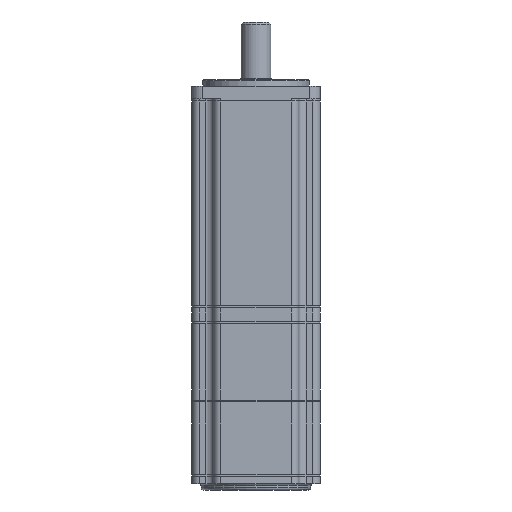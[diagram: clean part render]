
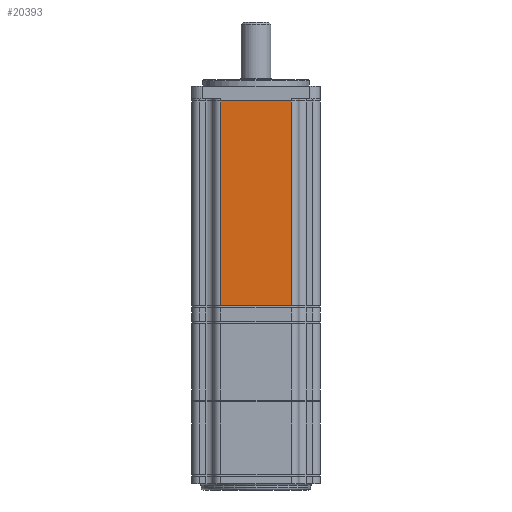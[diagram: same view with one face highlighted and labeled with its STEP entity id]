
A CAD part, front view. The second image highlights one B-rep face of the part: STEP entity #20393.
In plain terms, the highlighted planar face has unit normal (0, -1, 0) as drawn and (-1, 0, 0) by its records, which use the part's own axes.
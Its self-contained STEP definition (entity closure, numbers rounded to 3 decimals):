
#14836 = CARTESIAN_POINT ( 'NONE',  ( -30., 16.5, 96. ) ) ;
#14838 = CARTESIAN_POINT ( 'NONE',  ( -30., -16.5, 96. ) ) ;
#14907 = CARTESIAN_POINT ( 'NONE',  ( -30., -16.5, 0. ) ) ;
#14908 = CARTESIAN_POINT ( 'NONE',  ( -30., 16.5, 0. ) ) ;
#20393 = ADVANCED_FACE ( 'NONE', ( #88384 ), #87640, .F. ) ;
#20890 = EDGE_CURVE ( 'NONE', #22185, #22186, #89109, .T. ) ;
#20958 = EDGE_CURVE ( 'NONE', #22224, #22223, #89167, .T. ) ;
#20970 = EDGE_CURVE ( 'NONE', #22185, #22224, #89185, .T. ) ;
#20971 = EDGE_CURVE ( 'NONE', #22223, #22186, #89187, .T. ) ;
#22185 = VERTEX_POINT ( 'NONE', #14836 ) ;
#22186 = VERTEX_POINT ( 'NONE', #14838 ) ;
#22223 = VERTEX_POINT ( 'NONE', #14907 ) ;
#22224 = VERTEX_POINT ( 'NONE', #14908 ) ;
#23758 = ORIENTED_EDGE ( 'NONE', *, *, #20958, .T. ) ;
#23759 = ORIENTED_EDGE ( 'NONE', *, *, #20890, .F. ) ;
#23760 = ORIENTED_EDGE ( 'NONE', *, *, #20970, .T. ) ;
#23761 = ORIENTED_EDGE ( 'NONE', *, *, #20971, .T. ) ;
#40534 = EDGE_LOOP ( 'NONE', ( #23759, #23760, #23758, #23761 ) ) ;
#83630 = AXIS2_PLACEMENT_3D ( 'NONE', #87641, #87643, #87645 ) ;
#87640 = PLANE ( 'NONE',  #83630 ) ;
#87641 = CARTESIAN_POINT ( 'NONE',  ( -30., 20., 96. ) ) ;
#87643 = DIRECTION ( 'NONE',  ( 1., 0., 0. ) ) ;
#87645 = DIRECTION ( 'NONE',  ( 0., 0., -1. ) ) ;
#88384 = FACE_OUTER_BOUND ( 'NONE', #40534, .T. ) ;
#89109 = LINE ( 'NONE', #94167, #92847 ) ;
#89167 = LINE ( 'NONE', #94371, #92940 ) ;
#89185 = LINE ( 'NONE', #94397, #92953 ) ;
#89187 = LINE ( 'NONE', #94399, #92954 ) ;
#92847 = VECTOR ( 'NONE', #94168, 1000. ) ;
#92940 = VECTOR ( 'NONE', #94372, 1000. ) ;
#92953 = VECTOR ( 'NONE', #94398, 1000. ) ;
#92954 = VECTOR ( 'NONE', #94400, 1000. ) ;
#94167 = CARTESIAN_POINT ( 'NONE',  ( -30., 20., 96. ) ) ;
#94168 = DIRECTION ( 'NONE',  ( 0., -1., 0. ) ) ;
#94371 = CARTESIAN_POINT ( 'NONE',  ( -30., 20., 0. ) ) ;
#94372 = DIRECTION ( 'NONE',  ( 0., -1., 0. ) ) ;
#94397 = CARTESIAN_POINT ( 'NONE',  ( -30., 16.5, 96. ) ) ;
#94398 = DIRECTION ( 'NONE',  ( 0., 0., -1. ) ) ;
#94399 = CARTESIAN_POINT ( 'NONE',  ( -30., -16.5, 96. ) ) ;
#94400 = DIRECTION ( 'NONE',  ( 0., 0., 1. ) ) ;
